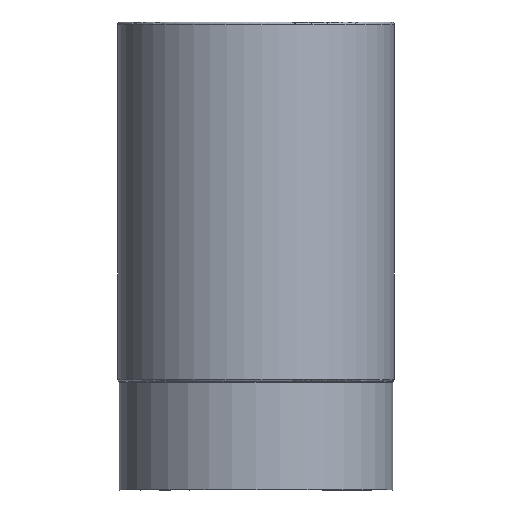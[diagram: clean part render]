
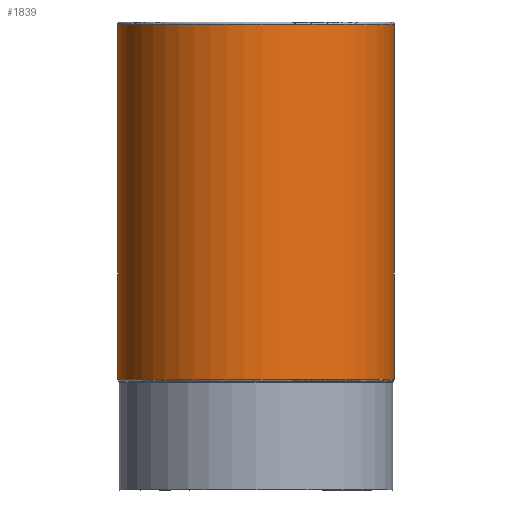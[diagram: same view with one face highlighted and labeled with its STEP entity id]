
A CAD part, left-side view. The second image highlights one B-rep face of the part: STEP entity #1839.
In plain terms, the highlighted cylindrical face has radius 60.499 mm (diameter 120.998 mm), a partial arc.
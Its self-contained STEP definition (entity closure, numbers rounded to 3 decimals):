
#85=CYLINDRICAL_SURFACE('',#2049,60.499);
#162=LINE('',#3909,#248);
#163=LINE('',#3921,#249);
#248=VECTOR('',#2517,304.8);
#249=VECTOR('',#2518,304.8);
#407=FACE_OUTER_BOUND('',#533,.T.);
#533=EDGE_LOOP('',(#1608,#1609,#1610,#1611));
#613=B_SPLINE_CURVE_WITH_KNOTS('',3,(#3876,#3877,#3878,#3879,#3880,#3881,
#3882,#3883,#3884,#3885),.UNSPECIFIED.,.F.,.F.,(4,1,1,1,1,1,1,4),(0.,0.143,
0.286,0.429,0.571,0.714,
0.857,1.),.UNSPECIFIED.);
#619=B_SPLINE_CURVE_WITH_KNOTS('',3,(#3923,#3924,#3925,#3926,#3927,#3928,
#3929,#3930,#3931,#3932),.UNSPECIFIED.,.F.,.F.,(4,1,1,1,1,1,1,4),(0.,0.143,
0.286,0.429,0.571,0.714,
0.857,1.),.UNSPECIFIED.);
#864=VERTEX_POINT('',#3726);
#865=VERTEX_POINT('',#3782);
#874=VERTEX_POINT('',#3908);
#875=VERTEX_POINT('',#3910);
#1121=EDGE_CURVE('',#864,#865,#613,.T.);
#1126=EDGE_CURVE('',#874,#864,#162,.T.);
#1128=EDGE_CURVE('',#865,#875,#163,.T.);
#1129=EDGE_CURVE('',#874,#875,#619,.T.);
#1608=ORIENTED_EDGE('',*,*,#1121,.T.);
#1609=ORIENTED_EDGE('',*,*,#1128,.T.);
#1610=ORIENTED_EDGE('',*,*,#1129,.F.);
#1611=ORIENTED_EDGE('',*,*,#1126,.T.);
#1839=ADVANCED_FACE('',(#407),#85,.T.);
#2049=AXIS2_PLACEMENT_3D('',#3922,#2519,#2520);
#2517=DIRECTION('',(0.,0.,1.));
#2518=DIRECTION('',(0.,0.,-1.));
#2519=DIRECTION('center_axis',(0.,0.,1.));
#2520=DIRECTION('ref_axis',(0.,1.,0.));
#3726=CARTESIAN_POINT('',(0.,-60.499,203.966));
#3782=CARTESIAN_POINT('',(0.,60.499,203.966));
#3876=CARTESIAN_POINT('Ctrl Pts',(0.,-60.499,
203.966));
#3877=CARTESIAN_POINT('Ctrl Pts',(-9.112,-60.631,203.966));
#3878=CARTESIAN_POINT('Ctrl Pts',(-27.116,-56.307,203.966));
#3879=CARTESIAN_POINT('Ctrl Pts',(-48.922,-39.025,203.966));
#3880=CARTESIAN_POINT('Ctrl Pts',(-60.994,-13.916,203.966));
#3881=CARTESIAN_POINT('Ctrl Pts',(-60.994,13.916,203.966));
#3882=CARTESIAN_POINT('Ctrl Pts',(-48.922,39.025,203.966));
#3883=CARTESIAN_POINT('Ctrl Pts',(-27.116,56.307,203.966));
#3884=CARTESIAN_POINT('Ctrl Pts',(-9.112,60.631,203.966));
#3885=CARTESIAN_POINT('Ctrl Pts',(0.,60.499,
203.966));
#3908=CARTESIAN_POINT('',(0.,-60.499,48.503));
#3909=CARTESIAN_POINT('',(0.,-60.499,48.503));
#3910=CARTESIAN_POINT('',(0.,60.499,48.503));
#3921=CARTESIAN_POINT('',(0.,60.499,203.966));
#3922=CARTESIAN_POINT('Origin',(0.,0.,1792.792));
#3923=CARTESIAN_POINT('Ctrl Pts',(0.,-60.499,
48.503));
#3924=CARTESIAN_POINT('Ctrl Pts',(-9.112,-60.631,48.503));
#3925=CARTESIAN_POINT('Ctrl Pts',(-27.116,-56.307,48.503));
#3926=CARTESIAN_POINT('Ctrl Pts',(-48.922,-39.025,48.503));
#3927=CARTESIAN_POINT('Ctrl Pts',(-60.994,-13.916,48.503));
#3928=CARTESIAN_POINT('Ctrl Pts',(-60.994,13.916,48.503));
#3929=CARTESIAN_POINT('Ctrl Pts',(-48.922,39.025,48.503));
#3930=CARTESIAN_POINT('Ctrl Pts',(-27.116,56.307,48.503));
#3931=CARTESIAN_POINT('Ctrl Pts',(-9.112,60.631,48.503));
#3932=CARTESIAN_POINT('Ctrl Pts',(0.,60.499,
48.503));
